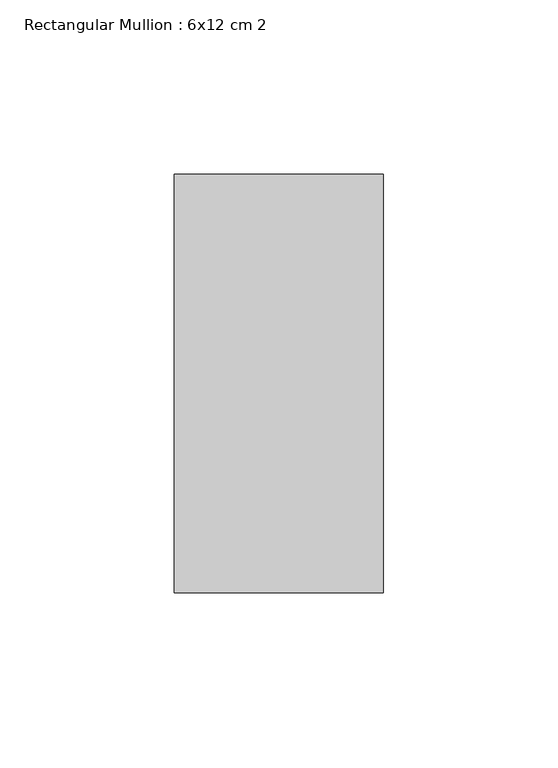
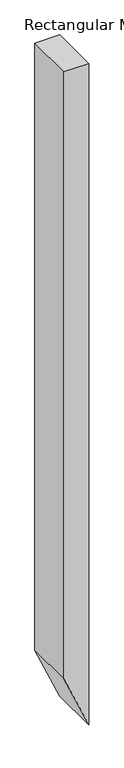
"""IFC4 building model written with IfcOpenShell, lengths in millimetres: member geometry, Rectangular Mullion : 6x12 cm 2."""

from ifc_helpers import new_model, si_unit, frame, origin, place, context, project, spatial, polyline, outline, extrude, source, transform, mapped, element, save


def rectangular_mullion_6x12_cm_2_9cbca12c(model_context):
    return source(origin(), model_context, "Body", "SweptSolid", [
        extrude(outline(polyline([(0.0, 0.0), (0.0, -60.0), (-1535.9597412, -60.0), (-1672.8727789, 0.0), (0.0, 0.0)])), frame((0.0, 85.0, 0.0), z_axis=(0.0, 1.0, 0.0), x_axis=(0.0, 0.0, 1.0)), (0.0, 0.0, 1.0), 120.0),
    ])


if __name__ == "__main__":
    model = new_model("IFC4")
    model_context = context("Model", 3, world=origin())
    ifc_project = project(units=[si_unit("LENGTHUNIT", "METRE", prefix="MILLI")], contexts=[model_context])
    site = spatial("IfcSite", under=ifc_project)
    building = spatial("IfcBuilding", under=site)
    placement = place(None, origin())
    rectangular_mullion_6x12_cm_2_shape = rectangular_mullion_6x12_cm_2_9cbca12c(model_context)
    element("IfcMember", 1, ObjectType="Rectangular Mullion : 6x12 cm 2", at=placement, inside=building, context=model_context, shape_type="MappedRepresentation", body=[
        mapped(rectangular_mullion_6x12_cm_2_shape, transform((0.0, 0.0, 0.0), x_axis=(1.0, 0.0, 0.0), y_axis=(0.0, 1.0, 0.0), z_axis=(0.0, 0.0, 1.0))),
    ])
    save(model, "model.ifc")
